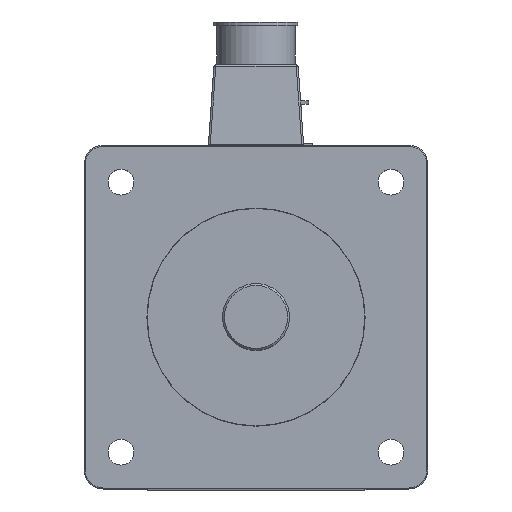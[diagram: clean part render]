
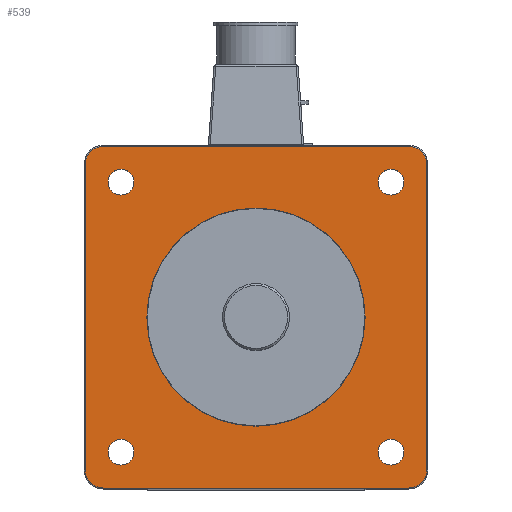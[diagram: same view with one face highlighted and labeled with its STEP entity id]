
A CAD part, top view. The second image highlights one B-rep face of the part: STEP entity #539.
In plain terms, the highlighted planar face has unit normal (0, 0, 1).
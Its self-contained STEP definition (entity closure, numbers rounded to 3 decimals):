
#375=CIRCLE('',#2509,57.15);
#377=CIRCLE('',#2513,6.75);
#378=CIRCLE('',#2514,6.75);
#379=CIRCLE('',#2515,6.75);
#380=CIRCLE('',#2516,6.75);
#381=CIRCLE('',#2517,9.5);
#382=CIRCLE('',#2518,9.5);
#383=CIRCLE('',#2519,9.5);
#384=CIRCLE('',#2520,9.5);
#539=ADVANCED_FACE('',(#749,#750,#751,#752,#753,#754),#697,.F.);
#697=PLANE('',#2521);
#749=FACE_BOUND('',#804,.T.);
#750=FACE_BOUND('',#805,.T.);
#751=FACE_BOUND('',#806,.T.);
#752=FACE_BOUND('',#807,.T.);
#753=FACE_BOUND('',#808,.T.);
#754=FACE_BOUND('',#809,.T.);
#804=EDGE_LOOP('',(#1050));
#805=EDGE_LOOP('',(#1051));
#806=EDGE_LOOP('',(#1052));
#807=EDGE_LOOP('',(#1053));
#808=EDGE_LOOP('',(#1054,#1055,#1056,#1057,#1058,#1059,#1060,#1061));
#809=EDGE_LOOP('',(#1062));
#1050=ORIENTED_EDGE('',*,*,#1926,.F.);
#1051=ORIENTED_EDGE('',*,*,#1927,.F.);
#1052=ORIENTED_EDGE('',*,*,#1928,.F.);
#1053=ORIENTED_EDGE('',*,*,#1929,.F.);
#1054=ORIENTED_EDGE('',*,*,#1930,.T.);
#1055=ORIENTED_EDGE('',*,*,#1931,.T.);
#1056=ORIENTED_EDGE('',*,*,#1932,.T.);
#1057=ORIENTED_EDGE('',*,*,#1933,.T.);
#1058=ORIENTED_EDGE('',*,*,#1934,.T.);
#1059=ORIENTED_EDGE('',*,*,#1935,.T.);
#1060=ORIENTED_EDGE('',*,*,#1936,.T.);
#1061=ORIENTED_EDGE('',*,*,#1937,.T.);
#1062=ORIENTED_EDGE('',*,*,#1924,.T.);
#1723=VERTEX_POINT('',#3726);
#1725=VERTEX_POINT('',#3732);
#1726=VERTEX_POINT('',#3734);
#1727=VERTEX_POINT('',#3736);
#1728=VERTEX_POINT('',#3738);
#1729=VERTEX_POINT('',#3740);
#1730=VERTEX_POINT('',#3741);
#1731=VERTEX_POINT('',#3743);
#1732=VERTEX_POINT('',#3745);
#1733=VERTEX_POINT('',#3747);
#1734=VERTEX_POINT('',#3749);
#1735=VERTEX_POINT('',#3751);
#1736=VERTEX_POINT('',#3753);
#1924=EDGE_CURVE('',#1723,#1723,#375,.T.);
#1926=EDGE_CURVE('',#1725,#1725,#377,.T.);
#1927=EDGE_CURVE('',#1726,#1726,#378,.T.);
#1928=EDGE_CURVE('',#1727,#1727,#379,.T.);
#1929=EDGE_CURVE('',#1728,#1728,#380,.T.);
#1930=EDGE_CURVE('',#1729,#1730,#2237,.T.);
#1931=EDGE_CURVE('',#1730,#1731,#381,.T.);
#1932=EDGE_CURVE('',#1731,#1732,#2238,.T.);
#1933=EDGE_CURVE('',#1732,#1733,#382,.T.);
#1934=EDGE_CURVE('',#1733,#1734,#2239,.T.);
#1935=EDGE_CURVE('',#1734,#1735,#383,.T.);
#1936=EDGE_CURVE('',#1735,#1736,#2240,.T.);
#1937=EDGE_CURVE('',#1736,#1729,#384,.T.);
#2237=LINE('',#3739,#2370);
#2238=LINE('',#3744,#2371);
#2239=LINE('',#3748,#2372);
#2240=LINE('',#3752,#2373);
#2370=VECTOR('',#2913,1.);
#2371=VECTOR('',#2916,1.);
#2372=VECTOR('',#2919,1.);
#2373=VECTOR('',#2922,1.);
#2509=AXIS2_PLACEMENT_3D('',#3725,#2897,#2898);
#2513=AXIS2_PLACEMENT_3D('',#3731,#2905,#2906);
#2514=AXIS2_PLACEMENT_3D('',#3733,#2907,#2908);
#2515=AXIS2_PLACEMENT_3D('',#3735,#2909,#2910);
#2516=AXIS2_PLACEMENT_3D('',#3737,#2911,#2912);
#2517=AXIS2_PLACEMENT_3D('',#3742,#2914,#2915);
#2518=AXIS2_PLACEMENT_3D('',#3746,#2917,#2918);
#2519=AXIS2_PLACEMENT_3D('',#3750,#2920,#2921);
#2520=AXIS2_PLACEMENT_3D('',#3754,#2923,#2924);
#2521=AXIS2_PLACEMENT_3D('',#3755,#2925,#2926);
#2897=DIRECTION('',(0.,0.,-1.));
#2898=DIRECTION('',(1.,0.,0.));
#2905=DIRECTION('',(0.,0.,1.));
#2906=DIRECTION('',(0.,1.,0.));
#2907=DIRECTION('',(0.,0.,1.));
#2908=DIRECTION('',(1.,0.,0.));
#2909=DIRECTION('',(0.,0.,1.));
#2910=DIRECTION('',(-1.,0.,0.));
#2911=DIRECTION('',(0.,0.,1.));
#2912=DIRECTION('',(0.,-1.,0.));
#2913=DIRECTION('',(0.,-1.,0.));
#2914=DIRECTION('',(0.,0.,1.));
#2915=DIRECTION('',(-1.,0.,0.));
#2916=DIRECTION('',(1.,0.,0.));
#2917=DIRECTION('',(0.,0.,1.));
#2918=DIRECTION('',(-1.,0.,0.));
#2919=DIRECTION('',(0.,1.,0.));
#2920=DIRECTION('',(0.,0.,1.));
#2921=DIRECTION('',(-1.,0.,0.));
#2922=DIRECTION('',(-1.,0.,0.));
#2923=DIRECTION('',(0.,0.,1.));
#2924=DIRECTION('',(-1.,0.,0.));
#2925=DIRECTION('',(0.,0.,-1.));
#2926=DIRECTION('',(-1.,0.,0.));
#3725=CARTESIAN_POINT('',(0.,0.,-3.2));
#3726=CARTESIAN_POINT('',(57.15,0.,-3.2));
#3731=CARTESIAN_POINT('',(-70.711,-70.711,-3.2));
#3732=CARTESIAN_POINT('',(-70.711,-63.961,-3.2));
#3733=CARTESIAN_POINT('',(-70.711,70.711,-3.2));
#3734=CARTESIAN_POINT('',(-63.961,70.711,-3.2));
#3735=CARTESIAN_POINT('',(70.711,-70.711,-3.2));
#3736=CARTESIAN_POINT('',(63.961,-70.711,-3.2));
#3737=CARTESIAN_POINT('',(70.711,70.711,-3.2));
#3738=CARTESIAN_POINT('',(70.711,63.961,-3.2));
#3739=CARTESIAN_POINT('',(-89.5,90.,-3.2));
#3740=CARTESIAN_POINT('',(-89.5,80.,-3.2));
#3741=CARTESIAN_POINT('',(-89.5,-80.,-3.2));
#3742=CARTESIAN_POINT('',(-80.,-80.,-3.2));
#3743=CARTESIAN_POINT('',(-80.,-89.5,-3.2));
#3744=CARTESIAN_POINT('',(-90.,-89.5,-3.2));
#3745=CARTESIAN_POINT('',(80.,-89.5,-3.2));
#3746=CARTESIAN_POINT('',(80.,-80.,-3.2));
#3747=CARTESIAN_POINT('',(89.5,-80.,-3.2));
#3748=CARTESIAN_POINT('',(89.5,90.,-3.2));
#3749=CARTESIAN_POINT('',(89.5,80.,-3.2));
#3750=CARTESIAN_POINT('',(80.,80.,-3.2));
#3751=CARTESIAN_POINT('',(80.,89.5,-3.2));
#3752=CARTESIAN_POINT('',(-90.,89.5,-3.2));
#3753=CARTESIAN_POINT('',(-80.,89.5,-3.2));
#3754=CARTESIAN_POINT('',(-80.,80.,-3.2));
#3755=CARTESIAN_POINT('',(-90.,90.,-3.2));
